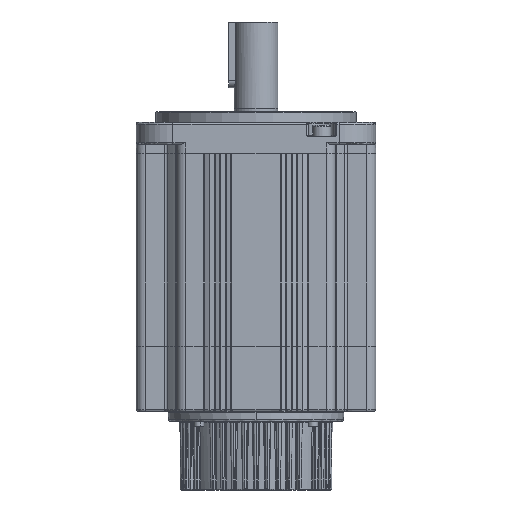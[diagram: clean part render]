
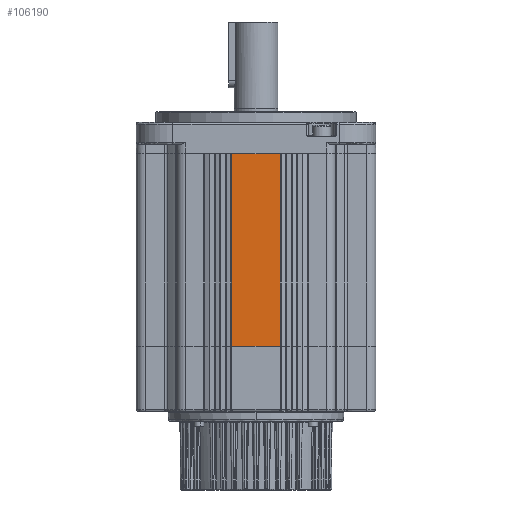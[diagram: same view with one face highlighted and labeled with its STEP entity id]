
A CAD part, front view. The second image highlights one B-rep face of the part: STEP entity #106190.
In plain terms, the highlighted planar face has unit normal (0, -1, 0).
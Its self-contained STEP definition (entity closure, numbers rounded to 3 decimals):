
#234 = PLANE ( 'NONE',  #89212 ) ;
#4388 = VECTOR ( 'NONE', #21934, 1000. ) ;
#8271 = CARTESIAN_POINT ( 'NONE',  ( 13.2, -65.5, 105.5 ) ) ;
#9788 = VERTEX_POINT ( 'NONE', #30735 ) ;
#14530 = VERTEX_POINT ( 'NONE', #8271 ) ;
#17932 = VERTEX_POINT ( 'NONE', #72117 ) ;
#18024 = DIRECTION ( 'NONE',  ( -1., 0., 0. ) ) ;
#18512 = EDGE_CURVE ( 'NONE', #121743, #9788, #117433, .T. ) ;
#19210 = ORIENTED_EDGE ( 'NONE', *, *, #141047, .F. ) ;
#21934 = DIRECTION ( 'NONE',  ( 0., 0., -1. ) ) ;
#23024 = CARTESIAN_POINT ( 'NONE',  ( 13.5, -65.5, 105.5 ) ) ;
#27333 = ORIENTED_EDGE ( 'NONE', *, *, #18512, .F. ) ;
#29458 = CARTESIAN_POINT ( 'NONE',  ( 13.2, -65.5, 105.5 ) ) ;
#30735 = CARTESIAN_POINT ( 'NONE',  ( -13.2, -65.5, 0. ) ) ;
#36864 = ORIENTED_EDGE ( 'NONE', *, *, #87433, .F. ) ;
#40890 = CARTESIAN_POINT ( 'NONE',  ( 13.5, -65.5, 105.5 ) ) ;
#49112 = ORIENTED_EDGE ( 'NONE', *, *, #104145, .T. ) ;
#55367 = DIRECTION ( 'NONE',  ( 0., 1., 0. ) ) ;
#59030 = EDGE_LOOP ( 'NONE', ( #19210, #49112, #36864, #27333 ) ) ;
#72117 = CARTESIAN_POINT ( 'NONE',  ( -13.2, -65.5, 105.5 ) ) ;
#76366 = DIRECTION ( 'NONE',  ( -1., 0., 0. ) ) ;
#82567 = LINE ( 'NONE', #40890, #126841 ) ;
#86842 = CARTESIAN_POINT ( 'NONE',  ( 0., -65.5, 0. ) ) ;
#87190 = LINE ( 'NONE', #132198, #127873 ) ;
#87409 = VECTOR ( 'NONE', #76366, 1000. ) ;
#87433 = EDGE_CURVE ( 'NONE', #9788, #17932, #87190, .T. ) ;
#89212 = AXIS2_PLACEMENT_3D ( 'NONE', #23024, #55367, #135136 ) ;
#90455 = FACE_OUTER_BOUND ( 'NONE', #59030, .T. ) ;
#99056 = DIRECTION ( 'NONE',  ( 0., 0., 1. ) ) ;
#104145 = EDGE_CURVE ( 'NONE', #14530, #17932, #82567, .T. ) ;
#106190 = ADVANCED_FACE ( 'NONE', ( #90455 ), #234, .F. ) ;
#114062 = CARTESIAN_POINT ( 'NONE',  ( 13.2, -65.5, 0. ) ) ;
#117433 = LINE ( 'NONE', #86842, #87409 ) ;
#121443 = LINE ( 'NONE', #29458, #4388 ) ;
#121743 = VERTEX_POINT ( 'NONE', #114062 ) ;
#126841 = VECTOR ( 'NONE', #18024, 1000. ) ;
#127873 = VECTOR ( 'NONE', #99056, 1000. ) ;
#132198 = CARTESIAN_POINT ( 'NONE',  ( -13.2, -65.5, 105.5 ) ) ;
#135136 = DIRECTION ( 'NONE',  ( 0., 0., 1. ) ) ;
#141047 = EDGE_CURVE ( 'NONE', #14530, #121743, #121443, .T. ) ;
